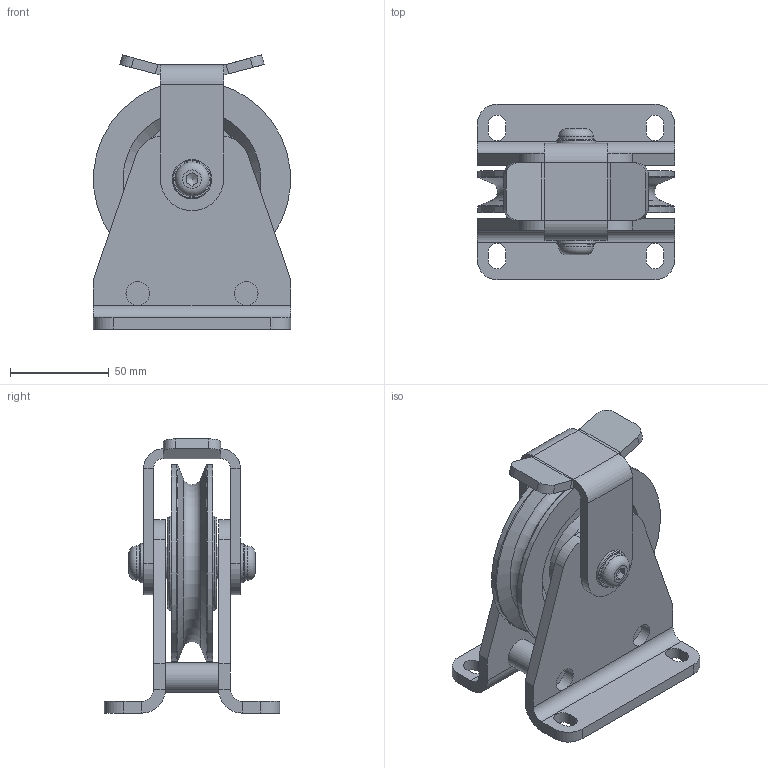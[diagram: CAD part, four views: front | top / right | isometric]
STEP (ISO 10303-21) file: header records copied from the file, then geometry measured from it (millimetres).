
FILE_DESCRIPTION(/* description */ ('Seilrollenbock Seilniederhalter ø100 Stahl Gleitlager komplett'),/* implementation_level */ '2;1');
FILE_NAME(/* name */ 'Z:\Workspace\03 Seilrollen\1.406 Seilrollenbock Seilniederhalter Gleitlager\1.406.03 Seilrollenbock Seilniederhalter ø100 Stahl Gleitlager\1.406.03 Seilrollenbock Seilniederhalter ø100 Stahl Gleitlager komplett.stp',/* time_stamp */ '2021-10-07T13:46:01+02:00',/* author */ ('cad-user'),/* organization */ (''),/* preprocessor_version */ 'ST-DEVELOPER v18',/* originating_system */ 'Autodesk Inventor 2020',/* authorisation */ '');
FILE_SCHEMA (('AUTOMOTIVE_DESIGN { 1 0 10303 214 3 1 1 }'));
Length unit declared in the file: millimetre
Products named in the file (11): 1.406.03 Seilrollenbock Seilniederhalter ø100 Stahl Gleitlager ko
mplett; 1.405.03.01 Seilrollenbock Schweißteil; 1.405.03.01 Blech; 1.405.03.01 Distanzachse; 1.401.03 Seilrolle ø100 Buchse komplett; 1.401.03 Seilrolle ø100 Buchse ; Lagerbuchse 1625-DU; 1.405.03.02 Achse; DIN 125-1 - B 10,5; 1.406.03.03 Seilniederhalter ø100; ISO 7380 - M10 x 25
Assembly tree (14 placements, depth 3):
  1.406.03 Seilrollenbock Seilniederhalter ø100 Stahl Gleitlager ko
mplett
    1.405.03.01 Seilrollenbock Schweißteil
      1.405.03.01 Blech  x2
      1.405.03.01 Distanzachse  x2
    1.401.03 Seilrolle ø100 Buchse komplett
      1.401.03 Seilrolle ø100 Buchse 
      Lagerbuchse 1625-DU
    1.405.03.02 Achse
    DIN 125-1 - B 10,5  x2
    1.406.03.03 Seilniederhalter ø100
    ISO 7380 - M10 x 25  x2
Bounding box: 100 x 89 x 139.01 mm (x, y, z)
Volume: 288470.6 mm3; surface area: 102061.9 mm2
Topology: 12 solids, 12 shells, 185 faces, 457 edges, 292 vertices
Faces by surface type: plane 100, cylinder 62, cone 16, torus 7
Full cylindrical faces by diameter (mm): 8.376 x1, 10 x2, 10.4 x4, 10.5 x2, 12 x4, 15 x2, 16 x1, 17.5 x2, 18 x1, 20 x2, 48 x2, 100 x2
Entity records: 4331 total; most frequent: DIRECTION 765, CARTESIAN_POINT 697, ORIENTED_EDGE 634, EDGE_CURVE 317, AXIS2_PLACEMENT_3D 303, VERTEX_POINT 202, LINE 159, VECTOR 159
